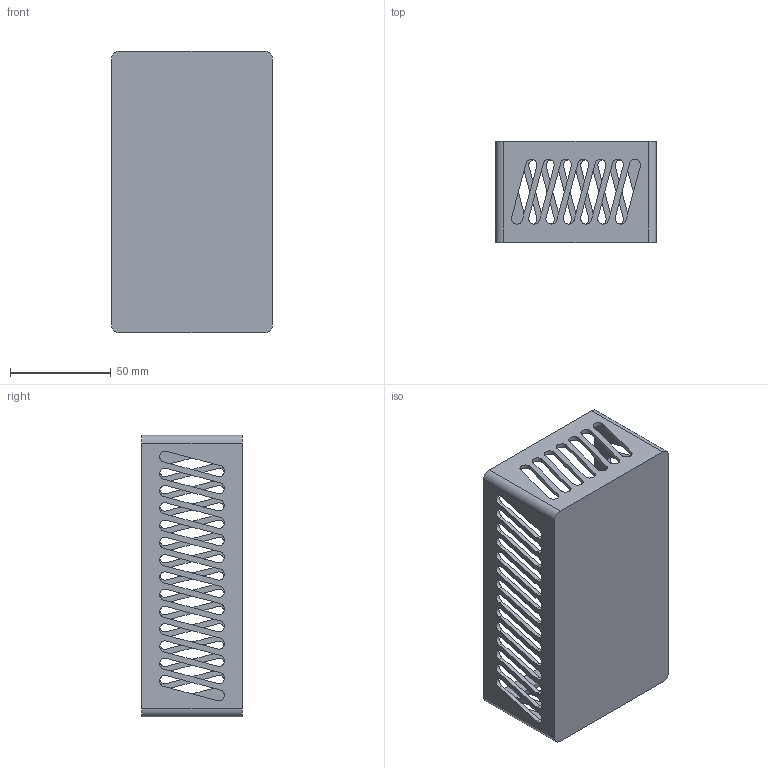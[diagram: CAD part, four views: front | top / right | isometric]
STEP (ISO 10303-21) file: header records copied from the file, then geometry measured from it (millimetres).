
FILE_DESCRIPTION(/* description */ (''),/* implementation_level */ '2;1');
FILE_NAME(/* name */ 'C:\Users\ondrej.finke\My Drive\3D tisk\bathroom box\box_v2.step',/* time_stamp */ '2022-11-02T09:41:58+01:00',/* author */ ('ondrej.finke'),/* organization */ (''),/* preprocessor_version */ 'ST-DEVELOPER v17',/* originating_system */ 'Autodesk Inventor 2019',/* authorisation */ '');
FILE_SCHEMA (('AUTOMOTIVE_DESIGN { 1 0 10303 214 3 1 1 }'));
Length unit declared in the file: millimetre
Products named in the file (1): box
Bounding box: 80 x 50 x 140 mm (x, y, z)
Volume: 49085 mm3; surface area: 55384.8 mm2
Topology: 1 solids, 1 shells, 187 faces, 552 edges, 368 vertices
Faces by surface type: plane 95, cylinder 92
Entity records: 6497 total; most frequent: DIRECTION 1112, CARTESIAN_POINT 1108, ORIENTED_EDGE 1104, EDGE_CURVE 552, AXIS2_PLACEMENT_3D 372, LINE 368, VECTOR 368, VERTEX_POINT 368
